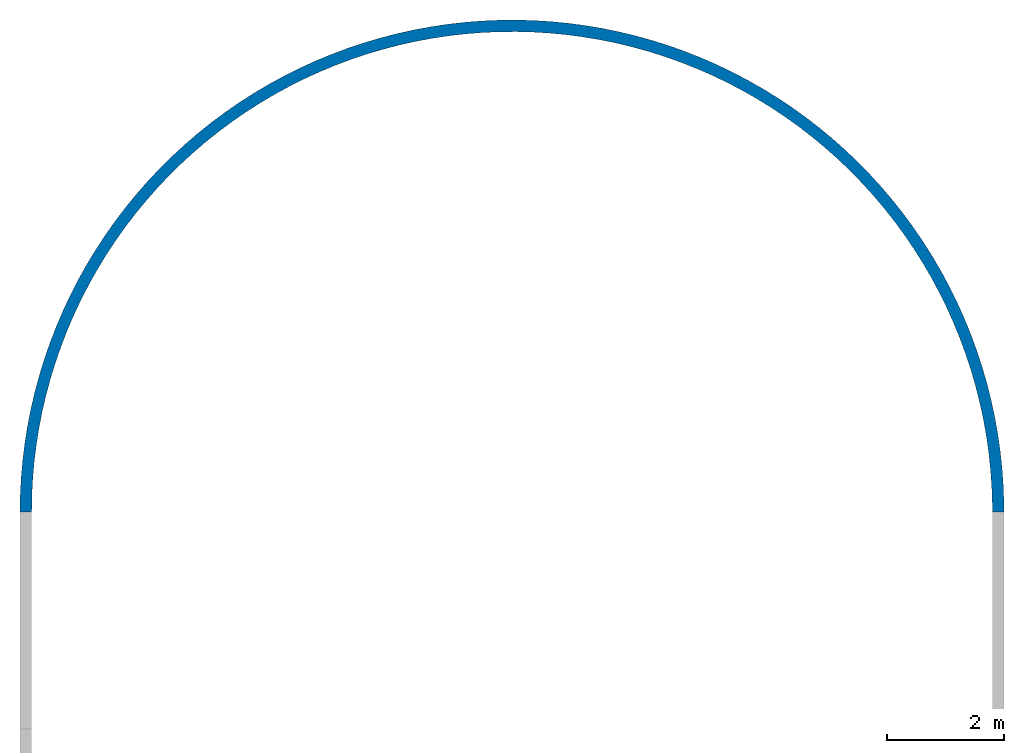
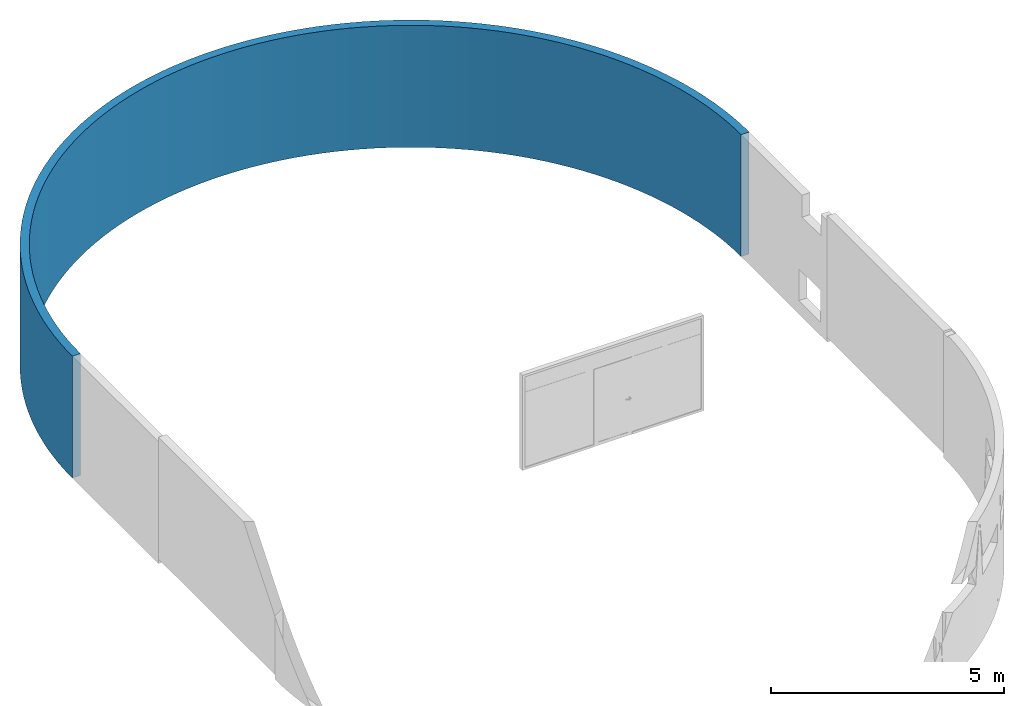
# One storey, part 3 of 3: 1 wall.
"""IFC4 building model written with IfcOpenShell, lengths in millimetres."""

import ifcopenshell
import ifcopenshell.guid

model = None  # the IFC model being written
_history = None  # IfcOwnerHistory: only IFC2X3 demands one
_inside = {}  # id of a spatial element -> (the spatial element, [elements in it])
_under = {}  # id of a project, library or spatial element -> (it, [spatial elements below it])
_declared = {}  # id of a project -> (the project, [libraries it declares])
_typed = {}  # id of a type object -> (the type object, [elements of that type])
_made_of = {}  # id of a material, layer set ... -> (it, [elements and type objects made of it])


def new_model(schema):
    """Start an empty IFC model of exactly this schema.

    Asked for "IFC4X3", IfcOpenShell would pick the latest addendum, in which some entities
    have other attributes; the version numbers below select the first issue.
    IFC2X3 requires an IfcOwnerHistory on every rooted entity: one is made here for all.
    """
    global model, _history
    if schema == "IFC4X3":
        model = ifcopenshell.file(schema_version=(4, 3, 0, 0))
    else:
        model = ifcopenshell.file(schema=schema)
    _inside.clear()
    _under.clear()
    _declared.clear()
    _typed.clear()
    _made_of.clear()
    _history = None
    if model.schema == "IFC2X3":
        org = make("IfcOrganization", Name="unknown")
        user = make(
            "IfcPersonAndOrganization",
            ThePerson=make("IfcPerson", FamilyName="unknown"),
            TheOrganization=org,
        )
        app = make(
            "IfcApplication",
            ApplicationDeveloper=org,
            Version="unknown",
            ApplicationFullName="unknown",
            ApplicationIdentifier="unknown",
        )
        _history = make(
            "IfcOwnerHistory",
            OwningUser=user,
            OwningApplication=app,
            ChangeAction="ADDED",
            CreationDate=0,
        )
    return model


def make(cls, **values):
    """One entity of the class cls with the attributes given. An attribute that is None is left unset."""
    return model.create_entity(
        cls, **{name: value for name, value in values.items() if value is not None}
    )


def entity(cls, *values):
    """Any entity or typed value of the class cls, its attributes in the order of the schema. None: left unset."""
    e = model.create_entity(cls)
    for i, value in enumerate(values):
        if value is not None:
            e[i] = value
    return e


def rooted(cls, **values):
    """An entity with a GlobalId (a new one), such as an element, a storey or a relation."""
    return make(cls, GlobalId=ifcopenshell.guid.new(), OwnerHistory=_history, **values)


def si_unit(unit_type, name, prefix=None):
    """IfcSIUnit, for example si_unit("LENGTHUNIT", "METRE", prefix="MILLI")."""
    return make("IfcSIUnit", UnitType=unit_type, Prefix=prefix, Name=name)


def converted_unit(unit_type, name, factor, base, dimensions=None, offset=None):
    """IfcConversionBasedUnit, such as the inch: factor (a typed value) times the base unit."""
    return make(
        "IfcConversionBasedUnit"
        if offset is None
        else "IfcConversionBasedUnitWithOffset",
        ConversionOffset=offset,
        Dimensions=None
        if dimensions is None
        else entity("IfcDimensionalExponents", *dimensions),
        UnitType=unit_type,
        Name=name,
        ConversionFactor=make(
            "IfcMeasureWithUnit", ValueComponent=factor, UnitComponent=base
        ),
    )


def derived_unit(unit_type, elements):
    """IfcDerivedUnit: a product of units, each with its exponent."""
    return make(
        "IfcDerivedUnit",
        Elements=[
            make("IfcDerivedUnitElement", Unit=unit, Exponent=power)
            for unit, power in elements
        ],
        UnitType=unit_type,
    )


def assignment(units):
    """IfcUnitAssignment: the units of a project."""
    return None if units is None else make("IfcUnitAssignment", Units=units)


def point(xyz):
    """IfcCartesianPoint."""
    return None if xyz is None else make("IfcCartesianPoint", Coordinates=xyz)


def direction(xyz):
    """IfcDirection."""
    return None if xyz is None else make("IfcDirection", DirectionRatios=xyz)


def frame(location, z_axis=None, x_axis=None):
    """IfcAxis2Placement3D, a coordinate frame: its origin and axes. An axis left out is left unset."""
    return make(
        "IfcAxis2Placement3D",
        Location=point(location),
        Axis=direction(z_axis),
        RefDirection=direction(x_axis),
    )


def origin_with_axes():
    """The frame at (0, 0, 0) with the z axis (0, 0, 1) and the x axis (1, 0, 0) written out."""
    return frame((0.0, 0.0, 0.0), z_axis=(0.0, 0.0, 1.0), x_axis=(1.0, 0.0, 0.0))


def place(relative_to, where):
    """IfcLocalPlacement: puts the frame where relative to a parent placement (None: the world)."""
    return make(
        "IfcLocalPlacement", PlacementRelTo=relative_to, RelativePlacement=where
    )


def context(
    kind, dimensions, precision=None, world=None, true_north=None, identifier=None
):
    """IfcGeometricRepresentationContext, for example the 3D "Model" context."""
    return make(
        "IfcGeometricRepresentationContext",
        ContextIdentifier=identifier,
        ContextType=kind,
        CoordinateSpaceDimension=dimensions,
        Precision=precision,
        WorldCoordinateSystem=world,
        TrueNorth=true_north,
    )


def subcontext(parent, identifier, kind, view, scale=None):
    """IfcGeometricRepresentationSubContext, for example "Body" below "Model"."""
    return make(
        "IfcGeometricRepresentationSubContext",
        ContextIdentifier=identifier,
        ContextType=kind,
        ParentContext=parent,
        TargetScale=scale,
        TargetView=view,
    )


def project(units=None, contexts=None):
    """IfcProject with its units and contexts."""
    return rooted(
        "IfcProject",
        Name="project",
        RepresentationContexts=contexts,
        UnitsInContext=assignment(units),
    )


def spatial(cls, under=None, at=None, **own):
    """A site, building, storey or space (cls), placed at a placement, below another one or the project."""
    s = rooted(cls, ObjectPlacement=at, **own)
    if under is not None:
        _under.setdefault(under.id(), (under, []))[1].append(s)
    return s


def point_list(points):
    """IfcCartesianPointList2D or 3D."""
    cls = (
        "IfcCartesianPointList2D" if len(points[0]) == 2 else "IfcCartesianPointList3D"
    )
    return make(cls, CoordList=points)


def polygons(points, faces, closed=None, point_numbers=None):
    """IfcPolygonalFaceSet: a face is its outer loop, then its inner loops; points numbered from 1."""
    made = []
    for loops in faces:
        if len(loops) == 1:
            made.append(make("IfcIndexedPolygonalFace", CoordIndex=loops[0]))
        else:
            made.append(
                make(
                    "IfcIndexedPolygonalFaceWithVoids",
                    CoordIndex=loops[0],
                    InnerCoordIndices=loops[1:],
                )
            )
    return make(
        "IfcPolygonalFaceSet",
        Coordinates=point_list(points),
        Closed=closed,
        Faces=made,
        PnIndex=point_numbers,
    )


def shape(context_of_items, identifier, shape_type, items):
    """IfcShapeRepresentation: the items that make up one representation, for example the "Body"."""
    return make(
        "IfcShapeRepresentation",
        ContextOfItems=context_of_items,
        RepresentationIdentifier=identifier,
        RepresentationType=shape_type,
        Items=items,
    )


def material(Name=None, Category=None):
    """IfcMaterial."""
    return make("IfcMaterial", Name=Name, Category=Category)


def constituent(of_material, Name=None, Category=None, fraction=None):
    """IfcMaterialConstituent: one of the materials an element consists of."""
    return make(
        "IfcMaterialConstituent",
        Name=Name,
        Material=of_material,
        Fraction=fraction,
        Category=Category,
    )


def constituent_set(constituents=None, Name=None):
    """IfcMaterialConstituentSet."""
    return make(
        "IfcMaterialConstituentSet", Name=Name, MaterialConstituents=constituents
    )


def made_of(thing, what):
    """Note that an element or type object is made of a material, layer set ...; save() writes the relation."""
    if what is not None:
        _made_of.setdefault(what.id(), (what, []))[1].append(thing)
    return thing


def type_object(cls, material=None, **own):
    """A type object (cls), such as IfcWallType, which elements share."""
    return made_of(rooted(cls, **own), material)


def element(
    cls,
    number,
    at=None,
    inside=None,
    cuts=None,
    type_object=None,
    material=None,
    context=None,
    identifier="Body",
    shape_type=None,
    held_by="IfcProductDefinitionShape",
    body=None,
    shapes=None,
    **own,
):
    """One element of the class cls, such as IfcWall. Its Tag is "e" and its number.

    at: its placement. inside: the storey or other place that contains it. cuts: it is an
    opening in that element (IfcRelVoidsElement). A single representation is given by context,
    identifier, shape_type and body (its items); several are given by shapes. held_by: the class
    of the entity that holds the representations. save() writes the other relations.
    """
    e = rooted(cls, Tag="e%d" % number, ObjectPlacement=at, **own)
    if body is not None:
        shapes = [shape(context, identifier, shape_type, body)]
    if shapes is not None:
        e.Representation = make(held_by, Representations=shapes)
    if inside is not None:
        _inside.setdefault(inside.id(), (inside, []))[1].append(e)
    if cuts is not None:
        rooted(
            "IfcRelVoidsElement", RelatingBuildingElement=cuts, RelatedOpeningElement=e
        )
    if type_object is not None:
        _typed.setdefault(type_object.id(), (type_object, []))[1].append(e)
    return made_of(e, material)


def aggregate(whole, parts):
    """IfcRelAggregates: a whole, such as a stair, and the parts it consists of."""
    return rooted("IfcRelAggregates", RelatingObject=whole, RelatedObjects=parts)


def save(model, path):
    """Write the relations noted so far, then the file.

    IfcRelAggregates (storeys below a building ...), IfcRelContainedInSpatialStructure (elements
    in a storey), IfcRelDefinesByType, IfcRelAssociatesMaterial and IfcRelDeclares: one each for
    every whole, place, type object, material and project.
    """
    for whole, parts in _under.values():
        aggregate(whole, parts)
    for where, things in _inside.values():
        rooted(
            "IfcRelContainedInSpatialStructure",
            RelatedElements=things,
            RelatingStructure=where,
        )
    for kind, things in _typed.values():
        rooted("IfcRelDefinesByType", RelatedObjects=things, RelatingType=kind)
    for what, things in _made_of.values():
        rooted("IfcRelAssociatesMaterial", RelatedObjects=things, RelatingMaterial=what)
    for by, libraries in _declared.values():
        rooted("IfcRelDeclares", RelatingContext=by, RelatedDefinitions=libraries)
    model.write(path)


model = new_model("IFC4")

# Units and contexts
model_context = context("Model", 3, precision=0.01, world=origin_with_axes(), true_north=direction((0.0, 1.0)))
body_context = subcontext(model_context, "Body", "Model", "MODEL_VIEW")
ifc_project = project(units=[si_unit("LENGTHUNIT", "METRE", prefix="MILLI"), si_unit("AREAUNIT", "SQUARE_METRE"), si_unit("VOLUMEUNIT", "CUBIC_METRE"), converted_unit("PLANEANGLEUNIT", "DEGREE", entity("IfcPlaneAngleMeasure", 0.0174532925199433), si_unit("PLANEANGLEUNIT", "RADIAN"), dimensions=[0, 0, 0, 0, 0, 0, 0]), converted_unit("TIMEUNIT", "Year", entity("IfcTimeMeasure", 31557600.0), si_unit("TIMEUNIT", "SECOND"), dimensions=[0, 0, 1, 0, 0, 0, 0]), si_unit("MASSUNIT", "GRAM", prefix="KILO"), si_unit("THERMODYNAMICTEMPERATUREUNIT", "DEGREE_CELSIUS"), si_unit("LUMINOUSINTENSITYUNIT", "LUMEN"), si_unit("ENERGYUNIT", "JOULE", prefix="MEGA"), derived_unit("THERMALCONDUCTANCEUNIT", [(si_unit("POWERUNIT", "WATT"), 1), (si_unit("LENGTHUNIT", "METRE"), -1), (si_unit("THERMODYNAMICTEMPERATUREUNIT", "KELVIN"), -1)]), derived_unit("SPECIFICHEATCAPACITYUNIT", [(si_unit("ENERGYUNIT", "JOULE"), 1), (si_unit("MASSUNIT", "GRAM", prefix="KILO"), -1), (si_unit("THERMODYNAMICTEMPERATUREUNIT", "KELVIN"), -1)]), derived_unit("MASSDENSITYUNIT", [(si_unit("MASSUNIT", "GRAM", prefix="KILO"), 1), (si_unit("VOLUMEUNIT", "CUBIC_METRE"), -1)])], contexts=[model_context])

# Site, building, storey
site_placement = place(None, origin_with_axes())
site = spatial("IfcSite", under=ifc_project, at=site_placement, Name="Exteriér", CompositionType="ELEMENT")
building_placement = place(site_placement, origin_with_axes())
building = spatial("IfcBuilding", under=site, at=building_placement, Name="Univerzitní lezecké centrum", CompositionType="ELEMENT")
storey_placement = place(building_placement, frame((0.0, 0.0, 6400.0), z_axis=(0.0, 0.0, 1.0), x_axis=(1.0, 0.0, 0.0)))
storey = spatial("IfcBuildingStorey", under=building, at=storey_placement, Name="3.NP", CompositionType="ELEMENT", Elevation=6400.0)

# Wall
ifc_material = material(Name="Tepelná izolace - minerální vata - obvodová izolace")
ifc_constituent = constituent(ifc_material, Name="Tepelná izolace - minerální vata - obvodová izolace")
ifc_constituent_set = constituent_set(constituents=[ifc_constituent], Name="Obvodová tepelná izolace")
wall_type = type_object("IfcWallType", Name="Obvodová tepelná izolace 200", PredefinedType="NOTDEFINED")
wall_placement = place(storey_placement, frame((10649.85164885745, 8399.999999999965, -120.000000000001), z_axis=(0.0, 0.0, 1.0), x_axis=(0.0, 1.0, 0.0)))
element("IfcWall", 1, at=wall_placement, inside=storey, type_object=wall_type, material=ifc_constituent_set, Name="St01", PredefinedType="NOTDEFINED", context=body_context, shape_type="Tessellation", body=[
    polygons([(147.4418335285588, -199.9999999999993, 0.0), (147.4418335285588, -199.9999999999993, 3200.000000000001), (0.0, -199.9999999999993, 3200.000000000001), (0.0, -199.9999999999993, 0.0), (442.1438529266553, -189.6512387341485, 0.0), (442.1438529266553, -189.6512387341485, 3200.000000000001), (143.931313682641, 0.0, 3200.000000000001), (0.0, 0.0, 3200.000000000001), (0.0, 0.0, 0.0), (143.931313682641, 0.0, 0.0), (736.3011531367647, -168.9664658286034, 0.0), (736.3011531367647, -168.9664658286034, 3200.000000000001), (431.6166183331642, 10.10236218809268, 3200.000000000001), (431.6166183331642, 10.10236218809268, 0.0), (1029.551333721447, -137.9711648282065, 0.0), (1029.551333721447, -137.9711648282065, 3200.000000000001), (718.7701733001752, 30.29464050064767, 3200.000000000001), (718.7701733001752, 30.29464050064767, 0.0), (1321.533111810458, -96.70352180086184, 0.0), (1321.533111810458, -96.70352180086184, 3200.000000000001), (1005.038206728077, 60.55195814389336, 3200.000000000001), (1005.038206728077, 60.55195814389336, 0.0), (1611.886767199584, -45.21437829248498, 0.0), (1611.886767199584, -45.21437829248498, 3200.000000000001), (1290.068037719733, 100.8370382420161, 3200.000000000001), (1290.068037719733, 100.8370382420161, 0.0), (1900.254585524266, 16.4328313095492, 0.0), (1900.254585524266, 16.4328313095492, 3200.000000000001), (1573.508510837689, 151.1002497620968, 3200.000000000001), (1573.508510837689, 151.1002497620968, 0.0), (2186.281298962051, 88.16215792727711, 0.0), (2186.281298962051, 88.16215792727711, 3200.000000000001), (1855.01042872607, 211.279668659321, 3200.000000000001), (1855.01042872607, 211.279668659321, 0.0), (2469.614523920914, 169.8852313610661, 0.0), (2469.614523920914, 169.8852313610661, 3200.000000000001), (2134.226982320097, 281.3011541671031, 3200.000000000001), (2134.226982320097, 281.3011541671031, 0.0), (2749.905195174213, 261.5013691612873, 0.0), (2749.905195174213, 261.5013691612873, 3200.000000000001), (2410.814178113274, 361.078440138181, 3200.000000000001), (2410.814178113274, 361.078440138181, 0.0), (3026.807995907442, 362.8977006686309, 0.0), (3026.807995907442, 362.8977006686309, 3200.000000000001), (2684.43126195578, 450.5132413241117, 3200.000000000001), (2684.43126195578, 450.5132413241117, 0.0), (3299.981783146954, 473.9493060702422, 0.0), (3299.981783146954, 473.9493060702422, 3200.000000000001), (2954.741138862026, 549.4953744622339, 3200.000000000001), (2954.741138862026, 549.4953744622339, 0.0), (3569.090008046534, 594.519370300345, 0.0), (3569.090008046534, 594.519370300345, 3200.000000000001), (3221.410788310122, 657.9028940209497, 3200.000000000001), (3221.410788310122, 657.9028940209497, 0.0), (3833.801130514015, 724.4593515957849, 0.0), (3833.801130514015, 724.4593515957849, 3200.000000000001), (3484.111674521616, 775.6022424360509, 3200.000000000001), (3484.111674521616, 775.6022424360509, 0.0), (4093.78902766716, 863.6091644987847, 0.0), (4093.78902766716, 863.6091644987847, 3200.000000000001), (3742.520151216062, 902.4484146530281, 3200.000000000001), (3742.520151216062, 902.4484146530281, 0.0), (4348.733395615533, 1011.797377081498, 0.0), (4348.733395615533, 1011.797377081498, 3200.000000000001), (3996.317860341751, 1038.285136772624, 3200.000000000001), (3996.317860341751, 1038.285136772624, 0.0), (4598.320144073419, 1168.841422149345, 0.0), (4598.320144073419, 1168.841422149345, 3200.000000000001), (4245.192124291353, 1182.945058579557, 3200.000000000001), (4245.192124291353, 1182.945058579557, 0.0), (4842.241783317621, 1334.547822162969, 0.0), (4842.241783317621, 1334.547822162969, 3200.000000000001), (4488.836331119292, 1336.249959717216, 3200.000000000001), (4488.836331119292, 1336.249959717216, 0.0), (5080.197803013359, 1508.71242760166, 0.0), (5080.197803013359, 1508.71242760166, 3200.000000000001), (4726.950312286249, 1498.010969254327, 3200.000000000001), (4726.950312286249, 1498.010969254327, 0.0), (5311.895042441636, 1691.120668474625, 0.0), (5311.895042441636, 1691.120668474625, 3200.000000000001), (4959.240712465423, 1668.028798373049, 3200.000000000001), (4959.240712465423, 1668.028798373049, 0.0), (5537.048051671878, 1881.547818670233, 0.0), (5537.048051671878, 1881.547818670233, 3200.000000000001), (5185.421350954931, 1846.093985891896, 3200.000000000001), (5185.421350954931, 1846.093985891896, 0.0), (5755.379443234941, 2079.75927281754, 0.0), (5755.379443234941, 2079.75927281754, 3200.000000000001), (5405.213574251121, 2031.987156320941, 3200.000000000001), (5405.213574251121, 2031.987156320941, 0.0), (5966.620233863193, 2285.510835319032, 0.0), (5966.620233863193, 2285.510835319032, 3200.000000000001), (5618.346599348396, 2225.479290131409, 3200.000000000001), (5618.346599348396, 2225.479290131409, 0.0), (6170.51017587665, 2498.549021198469, 0.0), (6170.51017587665, 2498.549021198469, 3200.000000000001), (5824.557847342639, 2426.332005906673, 3200.000000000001), (5824.557847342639, 2426.332005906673, 0.0), (6366.798077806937, 2718.611368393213, 0.0), (6366.798077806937, 2718.611368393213, 3200.000000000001), (6023.593266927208, 2634.297854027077, 3200.000000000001), (6023.593266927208, 2634.297854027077, 0.0), (6555.242113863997, 2945.426761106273, 0.0), (6555.242113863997, 2945.426761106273, 3200.000000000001), (6215.207647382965, 2849.120621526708, 3200.000000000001), (6215.207647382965, 2849.120621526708, 0.0), (6735.610121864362, 3178.715763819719, 0.0), (6735.610121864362, 3178.715763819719, 3200.000000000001), (6399.164920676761, 3070.5356477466, 3200.000000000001), (6399.164920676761, 3070.5356477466, 0.0), (6907.67988925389, 3418.190965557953, 0.0), (6907.67988925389, 3418.190965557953, 3200.000000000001), (6575.238452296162, 3298.270150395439, 3200.000000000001), (6575.238452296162, 3298.270150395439, 0.0), (7071.239426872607, 3663.557333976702, 0.0), (7071.239426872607, 3663.557333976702, 3200.000000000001), (6743.21132046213, 3532.043561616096, 3200.000000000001), (6743.21132046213, 3532.043561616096, 0.0), (7226.087230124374, 3914.512578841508, 0.0), (7226.087230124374, 3914.512578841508, 3200.000000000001), (6902.876583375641, 3771.567873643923, 3200.000000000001), (6902.876583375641, 3771.567873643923, 0.0), (7372.03252722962, 4170.747524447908, 0.0), (7372.03252722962, 4170.747524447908, 3200.000000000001), (7054.037534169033, 4016.547993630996, 3200.000000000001), (7054.037534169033, 4016.547993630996, 0.0), (7508.895514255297, 4431.946490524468, 0.0), (7508.895514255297, 4431.946490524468, 3200.000000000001), (7196.507943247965, 4266.68210719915, 3200.000000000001), (7196.507943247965, 4266.68210719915, 0.0), (7636.507576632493, 4697.787681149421, 0.0), (7636.507576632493, 4697.787681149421, 3200.000000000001), (7330.112287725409, 4521.662050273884, 3200.000000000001), (7330.112287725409, 4521.662050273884, 0.0), (7754.711496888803, 4967.943581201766, 0.0), (7754.711496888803, 4967.943581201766, 3200.000000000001), (7454.685967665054, 4781.1736887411, 3200.000000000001), (7454.685967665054, 4781.1736887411, 0.0), (7863.361648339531, 5242.081359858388, 0.0), (7863.361648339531, 5242.081359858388, 3200.000000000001), (7570.075508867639, 5044.897305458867, 3200.000000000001), (7570.075508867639, 5044.897305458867, 0.0), (7962.324174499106, 5519.863280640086, 0.0), (7962.324174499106, 5519.863280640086, 3200.000000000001), (7676.138751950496, 5312.507994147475, 3200.000000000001), (7676.138751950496, 5312.507994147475, 0.0), (8051.477153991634, 5800.947117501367, 0.0), (8051.477153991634, 5800.947117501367, 3200.000000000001), (7772.745027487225, 5583.676059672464, 3200.000000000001), (7772.745027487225, 5583.676059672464, 0.0), (8130.710750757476, 6084.986576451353, 0.0), (8130.710750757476, 6084.986576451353, 3200.000000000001), (7859.775316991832, 5858.067424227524, 3200.000000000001), (7859.775316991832, 5858.067424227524, 0.0), (8199.927349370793, 6371.631722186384, 0.0), (8199.927349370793, 6371.631722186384, 3200.000000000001), (7937.122399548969, 6135.344038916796, 3200.000000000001), (7937.122399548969, 6135.344038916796, 0.0), (8259.041675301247, 6660.529409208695, 0.0), (8259.041675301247, 6660.529409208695, 3200.000000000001), (8004.69098390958, 6415.164300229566, 3200.000000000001), (8004.69098390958, 6415.164300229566, 0.0), (8307.980899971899, 6951.323716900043, 0.0), (8307.980899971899, 6951.323716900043, 3200.000000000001), (8062.397825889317, 6697.183470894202, 3200.000000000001), (8062.397825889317, 6697.183470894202, 0.0), (8346.684730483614, 7243.656388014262, 0.0), (8346.684730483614, 7243.656388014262, 3200.000000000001), (8110.171830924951, 6981.0541045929, 3200.000000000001), (8110.171830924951, 6981.0541045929, 0.0), (8375.10548389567, 7537.167270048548, 0.0), (8375.10548389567, 7537.167270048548, 3200.000000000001), (8147.95414166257, 7266.426474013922, 3200.000000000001), (8147.95414166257, 7266.426474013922, 0.0), (8393.20814597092, 7831.494758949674, 0.0), (8393.20814597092, 7831.494758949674, 3200.000000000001), (8175.69821046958, 7552.949001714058, 3200.000000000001), (8175.69821046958, 7552.949001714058, 0.0), (8400.970414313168, 8126.276244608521, 0.0), (8400.970414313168, 8126.276244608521, 3200.000000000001), (8193.369856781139, 7840.268693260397, 3200.000000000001), (8193.369856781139, 7840.268693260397, 0.0), (8398.382725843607, 8421.148557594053, 0.0), (8398.382725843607, 8421.148557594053, 3200.000000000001), (8200.947309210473, 8128.031572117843, 3200.000000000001), (8200.947309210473, 8128.031572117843, 0.0), (8385.44826858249, 8715.748416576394, 0.0), (8385.44826858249, 8715.748416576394, 3200.000000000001), (8198.421232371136, 8415.883115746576, 3200.000000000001), (8198.421232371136, 8415.883115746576, 0.0), (8362.182977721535, 9009.712875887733, 0.0), (8362.182977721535, 9009.712875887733, 3200.000000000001), (8185.794738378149, 8703.468692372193, 3200.000000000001), (8185.794738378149, 8703.468692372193, 0.0), (8328.615515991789, 9302.679772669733, 0.0), (8328.615515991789, 9302.679772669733, 3200.000000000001), (8163.083383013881, 8990.433997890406, 3200.000000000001), (8163.083383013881, 8990.433997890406, 0.0), (8284.787238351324, 9594.288173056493, 0.0), (8284.787238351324, 9594.288173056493, 3200.000000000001), (8130.315146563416, 9276.425492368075, 3200.000000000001), (8130.315146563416, 9276.425492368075, 0.0), (8230.752141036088, 9884.178816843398, 0.0), (8230.752141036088, 9884.178816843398, 3200.000000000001), (8087.53039934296, 9561.090835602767, 3200.000000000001), (8087.53039934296, 9561.090835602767, 0.0), (8166.576795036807, 10171.99456009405, 0.0), (8166.576795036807, 10171.99456009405, 3200.000000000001), (8034.781851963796, 9844.07932120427, 3200.000000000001), (8034.781851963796, 9844.07932120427, 0.0), (8092.340264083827, 10457.38081513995, 0.0), (8092.340264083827, 10457.38081513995, 3200.000000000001), (7972.13449039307, 10125.04230866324, 3200.000000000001), (7972.13449039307, 10125.04230866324, 0.0), (8008.134007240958, 10739.98598743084, 0.0), (8008.134007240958, 10739.98598743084, 3200.000000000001), (7899.665495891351, 10403.63365287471, 3200.000000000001), (7899.665495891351, 10403.63365287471, 0.0), (7914.061766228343, 11019.46190869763, 0.0), (7914.061766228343, 11019.46190869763, 3200.000000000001), (7817.464149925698, 10679.51013058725, 3200.000000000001), (7817.464149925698, 10679.51013058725, 0.0), (7810.23943761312, 11295.46426589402, 0.0), (7810.23943761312, 11295.46426589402, 3200.000000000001), (7725.631724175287, 10952.33186325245, 3200.000000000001), (7725.631724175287, 10952.33186325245, 0.0), (7696.794930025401, 11567.65302538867, 0.0), (7696.794930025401, 11567.65302538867, 3200.000000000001), (7624.281355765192, 11221.76273575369, 3200.000000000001), (7624.281355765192, 11221.76273575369, 0.0), (7573.868006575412, 11835.69285188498, 0.0), (7573.868006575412, 11835.69285188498, 3200.000000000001), (7513.53790788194, 11487.47081049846, 3200.000000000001), (7513.53790788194, 11487.47081049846, 0.0), (7441.610112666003, 12099.25352155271, 0.0), (7441.610112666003, 12099.25352155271, 3200.000000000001), (7393.537815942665, 11749.12873636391, 3200.000000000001), (7393.537815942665, 11749.12873636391, 0.0), (7300.184189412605, 12358.01032886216, 0.0), (7300.184189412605, 12358.01032886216, 3200.000000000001), (7264.428919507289, 12006.41415199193, 3200.000000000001), (7264.428919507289, 12006.41415199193, 0.0), (7149.76447290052, 12611.64448661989, 0.0), (7149.76447290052, 12611.64448661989, 3200.000000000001), (7126.370280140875, 12259.01008293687, 3200.000000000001), (7126.370280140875, 12259.01008293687, 0.0), (6990.536279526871, 12859.84351871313, 0.0), (6990.536279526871, 12859.84351871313, 3200.000000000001), (6979.531985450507, 12506.60533217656, 3200.000000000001), (6979.531985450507, 12506.60533217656, 0.0), (6822.695777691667, 13102.30164507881, 0.0), (6822.695777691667, 13102.30164507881, 3200.000000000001), (6824.094939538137, 12748.89486350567, 3200.000000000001), (6824.094939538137, 12748.89486350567, 0.0), (6646.449746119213, 13338.7201584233, 0.0), (6646.449746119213, 13338.7201584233, 3200.000000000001), (6660.250640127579, 12985.58017733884, 3200.000000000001), (6660.250640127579, 12985.58017733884, 0.0), (6462.015319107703, 13568.80779222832, 0.0), (6462.015319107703, 13568.80779222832, 3200.000000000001), (6488.200942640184, 13216.36967846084, 3200.000000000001), (6488.200942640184, 13216.36967846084, 0.0), (6269.619719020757, 13792.28107958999, 0.0), (6269.619719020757, 13792.28107958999, 3200.000000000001), (6308.157811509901, 13440.9790352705, 3200.000000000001), (6308.157811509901, 13440.9790352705, 0.0), (6069.499976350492, 14008.86470244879, 0.0), (6069.499976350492, 14008.86470244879, 3200.000000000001), (6120.343059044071, 13659.13153007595, 3200.000000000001), (6120.343059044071, 13659.13153007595, 0.0), (5861.902637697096, 14218.29183078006, 0.0), (5861.902637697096, 14218.29183078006, 3200.000000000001), (5924.98807215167, 13870.55840000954, 3200.000000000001), (5924.98807215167, 13870.55840000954, 0.0), (5647.083462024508, 14420.3044513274, 0.0), (5647.083462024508, 14420.3044513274, 3200.000000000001), (5722.333527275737, 14074.99916814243, 3200.000000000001), (5722.333527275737, 14074.99916814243, 0.0), (5425.307105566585, 14614.65368547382, 0.0), (5425.307105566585, 14614.65368547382, 3200.000000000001), (5512.629093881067, 14272.20196439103, 3200.000000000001), (5512.629093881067, 14272.20196439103, 0.0), (5196.84679577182, 14801.10009585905, 0.0), (5196.84679577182, 14801.10009585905, 3200.000000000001), (5296.133126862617, 14461.92383581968, 3200.000000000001), (5296.133126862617, 14461.92383581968, 0.0), (4961.983994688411, 14979.41398136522, 0.0), (4961.983994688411, 14979.41398136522, 3200.000000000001), (5073.112348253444, 14643.93104595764, 3200.000000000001), (5073.112348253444, 14643.93104595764, 0.0), (4721.008052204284, 15149.37566010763, 0.0), (4721.008052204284, 15149.37566010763, 3200.000000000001), (4843.841518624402, 14817.99936276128, 3200.000000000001), (4843.841518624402, 14817.99936276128, 0.0), (4474.215849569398, 15310.77574008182, 0.0), (4474.215849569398, 15310.77574008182, 3200.000000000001), (4608.603098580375, 14983.91433486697, 3200.000000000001), (4608.603098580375, 14983.91433486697, 0.0), (4221.911433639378, 15463.41537713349, 0.0), (4221.911433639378, 15463.41537713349, 3200.000000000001), (4367.686900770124, 15141.47155579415, 3200.000000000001), (4367.686900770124, 15141.47155579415, 0.0), (3964.405642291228, 15607.10651993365, 0.0), (3964.405642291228, 15607.10651993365, 3200.000000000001), (4121.389732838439, 15290.47691577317, 3200.000000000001), (4121.389732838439, 15290.47691577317, 0.0), (3702.015721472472, 15741.67214165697, 0.0), (3702.015721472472, 15741.67214165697, 3200.000000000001), (3870.015031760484, 15430.74684088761, 3200.000000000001), (3870.015031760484, 15430.74684088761, 0.0), (3435.064934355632, 15866.94645807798, 0.0), (3435.064934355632, 15866.94645807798, 3200.000000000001), (3613.872490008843, 15562.10851923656, 3200.000000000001), (3613.872490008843, 15562.10851923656, 0.0), (3163.882163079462, 15982.77513181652, 0.0), (3163.882163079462, 15982.77513181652, 3200.000000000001), (3353.277674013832, 15684.40011383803, 3200.000000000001), (3353.277674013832, 15684.40011383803, 0.0), (2888.8015035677, 16089.01546248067, 0.0), (2888.8015035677, 16089.01546248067, 3200.000000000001), (3088.551635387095, 15797.47096201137, 3200.000000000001), (3088.551635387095, 15797.47096201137, 0.0), (2610.161853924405, 16185.53656247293, 0.0), (2610.161853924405, 16185.53656247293, 3200.000000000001), (2820.020515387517, 15901.18176099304, 3200.000000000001), (2820.020515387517, 15901.18176099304, 0.0), (2328.306496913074, 16272.2195182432, 0.0), (2328.306496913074, 16272.2195182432, 3200.000000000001), (2548.015143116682, 15995.40473955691, 3200.000000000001), (2548.015143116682, 15995.40473955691, 0.0), (2043.582677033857, 16348.95753678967, 0.0), (2043.582677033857, 16348.95753678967, 3200.000000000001), (2272.870627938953, 16080.02381542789, 3200.000000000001), (2272.870627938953, 16080.02381542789, 0.0), (1756.341172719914, 16415.65607722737, 0.0), (1756.341172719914, 16415.65607722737, 3200.000000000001), (1994.925946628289, 16154.93473829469, 3200.000000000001), (1994.925946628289, 16154.93473829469, 0.0), (1466.935864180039, 16472.23296726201, 0.0), (1466.935864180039, 16472.23296726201, 3200.000000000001), (1714.523525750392, 16220.04521824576, 3200.000000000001), (1714.523525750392, 16220.04521824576, 0.0), (1175.723297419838, 16518.61850442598, 0.0), (1175.723297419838, 16518.61850442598, 3200.000000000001), (1432.008819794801, 16275.27503947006, 3200.000000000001), (1432.008819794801, 16275.27503947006, 0.0), (883.0622449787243, 16554.75554195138, 0.0), (883.0622449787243, 16554.75554195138, 3200.000000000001), (1147.729885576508, 16320.5561590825, 3200.000000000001), (1147.729885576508, 16320.5561590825, 0.0), (589.3132639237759, 16580.59955917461, 0.0), (589.3132639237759, 16580.59955917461, 3200.000000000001), (862.0369534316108, 16355.83279095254, 3200.000000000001), (862.0369534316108, 16355.83279095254, 0.0), (294.8382516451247, 16596.11871638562, 0.0), (294.8382516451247, 16596.11871638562, 3200.000000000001), (575.2819957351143, 16381.06147443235, 3200.000000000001), (575.2819957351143, 16381.06147443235, 0.0), (0.0, 16599.99999999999, 0.0), (0.0, 16599.99999999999, 3200.000000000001), (287.8182932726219, 16396.21112790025, 3200.000000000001), (287.8182932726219, 16396.21112790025, 0.0), (0.0, 16399.99999999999, 0.0), (0.0, 16399.99999999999, 3200.000000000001)], [[[1, 2, 3, 4]], [[5, 6, 2, 1]], [[2, 7, 8, 3]], [[4, 3, 8, 9]], [[10, 1, 4, 9]], [[11, 12, 6, 5]], [[6, 13, 7, 2]], [[14, 5, 1, 10]], [[7, 10, 9, 8]], [[15, 16, 12, 11]], [[12, 17, 13, 6]], [[18, 11, 5, 14]], [[13, 14, 10, 7]], [[19, 20, 16, 15]], [[16, 21, 17, 12]], [[22, 15, 11, 18]], [[17, 18, 14, 13]], [[23, 24, 20, 19]], [[20, 25, 21, 16]], [[26, 19, 15, 22]], [[21, 22, 18, 17]], [[27, 28, 24, 23]], [[24, 29, 25, 20]], [[30, 23, 19, 26]], [[25, 26, 22, 21]], [[31, 32, 28, 27]], [[28, 33, 29, 24]], [[34, 27, 23, 30]], [[29, 30, 26, 25]], [[35, 36, 32, 31]], [[32, 37, 33, 28]], [[38, 31, 27, 34]], [[33, 34, 30, 29]], [[39, 40, 36, 35]], [[36, 41, 37, 32]], [[42, 35, 31, 38]], [[37, 38, 34, 33]], [[43, 44, 40, 39]], [[40, 45, 41, 36]], [[46, 39, 35, 42]], [[41, 42, 38, 37]], [[47, 48, 44, 43]], [[44, 49, 45, 40]], [[50, 43, 39, 46]], [[45, 46, 42, 41]], [[51, 52, 48, 47]], [[48, 53, 49, 44]], [[54, 47, 43, 50]], [[49, 50, 46, 45]], [[55, 56, 52, 51]], [[52, 57, 53, 48]], [[58, 51, 47, 54]], [[53, 54, 50, 49]], [[59, 60, 56, 55]], [[56, 61, 57, 52]], [[62, 55, 51, 58]], [[57, 58, 54, 53]], [[63, 64, 60, 59]], [[60, 65, 61, 56]], [[66, 59, 55, 62]], [[61, 62, 58, 57]], [[67, 68, 64, 63]], [[64, 69, 65, 60]], [[70, 63, 59, 66]], [[65, 66, 62, 61]], [[71, 72, 68, 67]], [[68, 73, 69, 64]], [[74, 67, 63, 70]], [[69, 70, 66, 65]], [[75, 76, 72, 71]], [[72, 77, 73, 68]], [[78, 71, 67, 74]], [[73, 74, 70, 69]], [[79, 80, 76, 75]], [[76, 81, 77, 72]], [[82, 75, 71, 78]], [[77, 78, 74, 73]], [[83, 84, 80, 79]], [[80, 85, 81, 76]], [[86, 79, 75, 82]], [[81, 82, 78, 77]], [[87, 88, 84, 83]], [[84, 89, 85, 80]], [[90, 83, 79, 86]], [[85, 86, 82, 81]], [[91, 92, 88, 87]], [[88, 93, 89, 84]], [[94, 87, 83, 90]], [[89, 90, 86, 85]], [[95, 96, 92, 91]], [[92, 97, 93, 88]], [[98, 91, 87, 94]], [[93, 94, 90, 89]], [[99, 100, 96, 95]], [[96, 101, 97, 92]], [[102, 95, 91, 98]], [[97, 98, 94, 93]], [[103, 104, 100, 99]], [[100, 105, 101, 96]], [[106, 99, 95, 102]], [[101, 102, 98, 97]], [[107, 108, 104, 103]], [[104, 109, 105, 100]], [[110, 103, 99, 106]], [[105, 106, 102, 101]], [[111, 112, 108, 107]], [[108, 113, 109, 104]], [[114, 107, 103, 110]], [[109, 110, 106, 105]], [[115, 116, 112, 111]], [[112, 117, 113, 108]], [[118, 111, 107, 114]], [[113, 114, 110, 109]], [[119, 120, 116, 115]], [[116, 121, 117, 112]], [[122, 115, 111, 118]], [[117, 118, 114, 113]], [[123, 124, 120, 119]], [[120, 125, 121, 116]], [[126, 119, 115, 122]], [[121, 122, 118, 117]], [[127, 128, 124, 123]], [[124, 129, 125, 120]], [[130, 123, 119, 126]], [[125, 126, 122, 121]], [[131, 132, 128, 127]], [[128, 133, 129, 124]], [[134, 127, 123, 130]], [[129, 130, 126, 125]], [[135, 136, 132, 131]], [[132, 137, 133, 128]], [[138, 131, 127, 134]], [[133, 134, 130, 129]], [[139, 140, 136, 135]], [[136, 141, 137, 132]], [[142, 135, 131, 138]], [[137, 138, 134, 133]], [[143, 144, 140, 139]], [[140, 145, 141, 136]], [[146, 139, 135, 142]], [[141, 142, 138, 137]], [[147, 148, 144, 143]], [[144, 149, 145, 140]], [[150, 143, 139, 146]], [[145, 146, 142, 141]], [[151, 152, 148, 147]], [[148, 153, 149, 144]], [[154, 147, 143, 150]], [[149, 150, 146, 145]], [[155, 156, 152, 151]], [[152, 157, 153, 148]], [[158, 151, 147, 154]], [[153, 154, 150, 149]], [[159, 160, 156, 155]], [[156, 161, 157, 152]], [[162, 155, 151, 158]], [[157, 158, 154, 153]], [[163, 164, 160, 159]], [[160, 165, 161, 156]], [[166, 159, 155, 162]], [[161, 162, 158, 157]], [[167, 168, 164, 163]], [[164, 169, 165, 160]], [[170, 163, 159, 166]], [[165, 166, 162, 161]], [[171, 172, 168, 167]], [[168, 173, 169, 164]], [[174, 167, 163, 170]], [[169, 170, 166, 165]], [[175, 176, 172, 171]], [[172, 177, 173, 168]], [[178, 171, 167, 174]], [[173, 174, 170, 169]], [[179, 180, 176, 175]], [[176, 181, 177, 172]], [[182, 175, 171, 178]], [[177, 178, 174, 173]], [[183, 184, 180, 179]], [[180, 185, 181, 176]], [[186, 179, 175, 182]], [[181, 182, 178, 177]], [[187, 188, 184, 183]], [[184, 189, 185, 180]], [[190, 183, 179, 186]], [[185, 186, 182, 181]], [[191, 192, 188, 187]], [[188, 193, 189, 184]], [[194, 187, 183, 190]], [[189, 190, 186, 185]], [[195, 196, 192, 191]], [[192, 197, 193, 188]], [[198, 191, 187, 194]], [[193, 194, 190, 189]], [[199, 200, 196, 195]], [[196, 201, 197, 192]], [[202, 195, 191, 198]], [[197, 198, 194, 193]], [[203, 204, 200, 199]], [[200, 205, 201, 196]], [[206, 199, 195, 202]], [[201, 202, 198, 197]], [[207, 208, 204, 203]], [[204, 209, 205, 200]], [[210, 203, 199, 206]], [[205, 206, 202, 201]], [[211, 212, 208, 207]], [[208, 213, 209, 204]], [[214, 207, 203, 210]], [[209, 210, 206, 205]], [[215, 216, 212, 211]], [[212, 217, 213, 208]], [[218, 211, 207, 214]], [[213, 214, 210, 209]], [[219, 220, 216, 215]], [[216, 221, 217, 212]], [[222, 215, 211, 218]], [[217, 218, 214, 213]], [[223, 224, 220, 219]], [[220, 225, 221, 216]], [[226, 219, 215, 222]], [[221, 222, 218, 217]], [[227, 228, 224, 223]], [[224, 229, 225, 220]], [[230, 223, 219, 226]], [[225, 226, 222, 221]], [[231, 232, 228, 227]], [[228, 233, 229, 224]], [[234, 227, 223, 230]], [[229, 230, 226, 225]], [[235, 236, 232, 231]], [[232, 237, 233, 228]], [[238, 231, 227, 234]], [[233, 234, 230, 229]], [[239, 240, 236, 235]], [[236, 241, 237, 232]], [[242, 235, 231, 238]], [[237, 238, 234, 233]], [[243, 244, 240, 239]], [[240, 245, 241, 236]], [[246, 239, 235, 242]], [[241, 242, 238, 237]], [[247, 248, 244, 243]], [[244, 249, 245, 240]], [[250, 243, 239, 246]], [[245, 246, 242, 241]], [[251, 252, 248, 247]], [[248, 253, 249, 244]], [[254, 247, 243, 250]], [[249, 250, 246, 245]], [[255, 256, 252, 251]], [[252, 257, 253, 248]], [[258, 251, 247, 254]], [[253, 254, 250, 249]], [[259, 260, 256, 255]], [[256, 261, 257, 252]], [[262, 255, 251, 258]], [[257, 258, 254, 253]], [[263, 264, 260, 259]], [[260, 265, 261, 256]], [[266, 259, 255, 262]], [[261, 262, 258, 257]], [[267, 268, 264, 263]], [[264, 269, 265, 260]], [[270, 263, 259, 266]], [[265, 266, 262, 261]], [[271, 272, 268, 267]], [[268, 273, 269, 264]], [[274, 267, 263, 270]], [[269, 270, 266, 265]], [[275, 276, 272, 271]], [[272, 277, 273, 268]], [[278, 271, 267, 274]], [[273, 274, 270, 269]], [[279, 280, 276, 275]], [[276, 281, 277, 272]], [[282, 275, 271, 278]], [[277, 278, 274, 273]], [[283, 284, 280, 279]], [[280, 285, 281, 276]], [[286, 279, 275, 282]], [[281, 282, 278, 277]], [[287, 288, 284, 283]], [[284, 289, 285, 280]], [[290, 283, 279, 286]], [[285, 286, 282, 281]], [[291, 292, 288, 287]], [[288, 293, 289, 284]], [[294, 287, 283, 290]], [[289, 290, 286, 285]], [[295, 296, 292, 291]], [[292, 297, 293, 288]], [[298, 291, 287, 294]], [[293, 294, 290, 289]], [[299, 300, 296, 295]], [[296, 301, 297, 292]], [[302, 295, 291, 298]], [[297, 298, 294, 293]], [[303, 304, 300, 299]], [[300, 305, 301, 296]], [[306, 299, 295, 302]], [[301, 302, 298, 297]], [[307, 308, 304, 303]], [[304, 309, 305, 300]], [[310, 303, 299, 306]], [[305, 306, 302, 301]], [[311, 312, 308, 307]], [[308, 313, 309, 304]], [[314, 307, 303, 310]], [[309, 310, 306, 305]], [[315, 316, 312, 311]], [[312, 317, 313, 308]], [[318, 311, 307, 314]], [[313, 314, 310, 309]], [[319, 320, 316, 315]], [[316, 321, 317, 312]], [[322, 315, 311, 318]], [[317, 318, 314, 313]], [[323, 324, 320, 319]], [[320, 325, 321, 316]], [[326, 319, 315, 322]], [[321, 322, 318, 317]], [[327, 328, 324, 323]], [[324, 329, 325, 320]], [[330, 323, 319, 326]], [[325, 326, 322, 321]], [[331, 332, 328, 327]], [[328, 333, 329, 324]], [[334, 327, 323, 330]], [[329, 330, 326, 325]], [[335, 336, 332, 331]], [[332, 337, 333, 328]], [[338, 331, 327, 334]], [[333, 334, 330, 329]], [[339, 340, 336, 335]], [[336, 341, 337, 332]], [[342, 335, 331, 338]], [[337, 338, 334, 333]], [[343, 344, 340, 339]], [[340, 345, 341, 336]], [[346, 339, 335, 342]], [[341, 342, 338, 337]], [[347, 348, 344, 343]], [[344, 349, 345, 340]], [[350, 343, 339, 346]], [[345, 346, 342, 341]], [[351, 352, 348, 347]], [[348, 353, 349, 344]], [[354, 347, 343, 350]], [[349, 350, 346, 345]], [[355, 356, 352, 351]], [[352, 357, 353, 348]], [[358, 351, 347, 354]], [[353, 354, 350, 349]], [[359, 360, 356, 355]], [[356, 361, 357, 352]], [[362, 355, 351, 358]], [[357, 358, 354, 353]], [[359, 363, 364, 360]], [[360, 364, 361, 356]], [[363, 359, 355, 362]], [[361, 362, 358, 357]], [[364, 363, 362, 361]]], closed=True),
])

save(model, "model.ifc")
